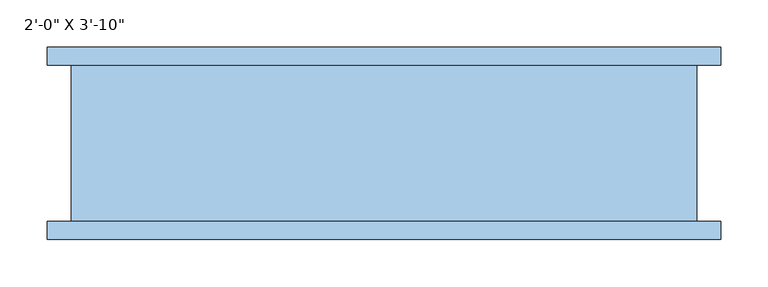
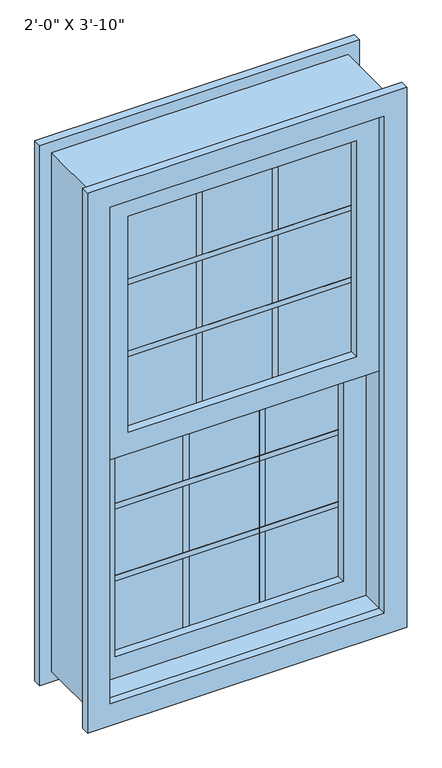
"""IFC4 building model written with IfcOpenShell, lengths in millimetres: window geometry."""

from ifc_helpers import new_model, si_unit, frame, origin, place, context, project, spatial, polyline, outline, extrude, source, transform, mapped, element, save


def window_c90586ce(model_context):
    return source(origin(), model_context, "Body", "SweptSolid", [
        extrude(outline(polyline([(1981.2, 304.8), (1981.2, -304.8), (1371.6, -304.8), (1371.6, 304.8), (1981.2, 304.8)]), holes=[polyline([(1930.4, 254.0), (1422.4, 254.0), (1422.4, -254.0), (1930.4, -254.0), (1930.4, 254.0)])]), frame((0.0, -82.55, 0.0), z_axis=(0.0, 1.0, 0.0), x_axis=(0.0, 0.0, 1.0)), (0.0, 0.0, 1.0), 50.8),
        extrude(outline(polyline([(-254.0, 0.0), (254.0, 0.0), (254.0, -12.7), (-254.0, -12.7), (-254.0, 0.0)])), frame((0.0, 0.0, 1026.5833333), z_axis=(0.0, 0.0, 1.0), x_axis=(1.0, 0.0, 0.0)), (0.0, 0.0, 1.0), 12.7),
        extrude(outline(polyline([(-254.0, 0.0), (254.0, 0.0), (254.0, -12.7), (-254.0, -12.7), (-254.0, 0.0)])), frame((0.0, 0.0, 1195.9166667), z_axis=(0.0, 0.0, 1.0), x_axis=(1.0, 0.0, 0.0)), (0.0, 0.0, 1.0), 12.7),
        extrude(outline(polyline([(-254.0, -50.8), (254.0, -50.8), (254.0, -63.5), (-254.0, -63.5), (-254.0, -50.8)])), frame((0.0, 0.0, 1754.7166667), z_axis=(0.0, 0.0, 1.0), x_axis=(1.0, 0.0, 0.0)), (0.0, 0.0, 1.0), 12.7),
        extrude(outline(polyline([(-254.0, -50.8), (254.0, -50.8), (254.0, -63.5), (-254.0, -63.5), (-254.0, -50.8)])), frame((0.0, 0.0, 1585.3833333), z_axis=(0.0, 0.0, 1.0), x_axis=(1.0, 0.0, 0.0)), (0.0, 0.0, 1.0), 12.7),
        extrude(outline(polyline([(-91.0166667, -50.8), (-78.3166667, -50.8), (-78.3166667, -63.5), (-91.0166667, -63.5), (-91.0166667, -50.8)])), frame((0.0, 0.0, 1422.4), z_axis=(0.0, 0.0, 1.0), x_axis=(1.0, 0.0, 0.0)), (0.0, 0.0, 1.0), 508.0),
        extrude(outline(polyline([(78.3166667, -50.8), (91.0166667, -50.8), (91.0166667, -63.5), (78.3166667, -63.5), (78.3166667, -50.8)])), frame((0.0, 0.0, 1422.4), z_axis=(0.0, 0.0, 1.0), x_axis=(1.0, 0.0, 0.0)), (0.0, 0.0, 1.0), 508.0),
        extrude(outline(polyline([(-254.0, -50.8), (254.0, -50.8), (254.0, -63.5), (-254.0, -63.5), (-254.0, -50.8)])), frame((0.0, 0.0, 1422.4), z_axis=(0.0, 0.0, 1.0), x_axis=(1.0, 0.0, 0.0)), (0.0, 0.0, 1.0), 508.0),
        extrude(outline(polyline([(78.3166667, 0.0), (91.0166667, 0.0), (91.0166667, -12.7), (78.3166667, -12.7), (78.3166667, 0.0)])), frame((0.0, 0.0, 863.6), z_axis=(0.0, 0.0, 1.0), x_axis=(1.0, 0.0, 0.0)), (0.0, 0.0, 1.0), 508.0),
        extrude(outline(polyline([(-91.0166667, 0.0), (-78.3166667, 0.0), (-78.3166667, -12.7), (-91.0166667, -12.7), (-91.0166667, 0.0)])), frame((0.0, 0.0, 863.6), z_axis=(0.0, 0.0, 1.0), x_axis=(1.0, 0.0, 0.0)), (0.0, 0.0, 1.0), 508.0),
        extrude(outline(polyline([(-254.0, 0.0), (254.0, 0.0), (254.0, -12.7), (-254.0, -12.7), (-254.0, 0.0)])), frame((0.0, 0.0, 863.6), z_axis=(0.0, 0.0, 1.0), x_axis=(1.0, 0.0, 0.0)), (0.0, 0.0, 1.0), 508.0),
        extrude(outline(polyline([(1422.4, -304.8), (812.8, -304.8), (812.8, 304.8), (1422.4, 304.8), (1422.4, -304.8)]), holes=[polyline([(1371.6, 254.0), (863.6, 254.0), (863.6, -254.0), (1371.6, -254.0), (1371.6, 254.0)])]), frame((0.0, -31.75, 0.0), z_axis=(0.0, 1.0, 0.0), x_axis=(0.0, 0.0, 1.0)), (0.0, 0.0, 1.0), 50.8),
        extrude(outline(polyline([(2032.0, -355.6), (762.0, -355.6), (762.0, 355.6), (2032.0, 355.6), (2032.0, -355.6)]), holes=[polyline([(1981.2, -304.8), (1981.2, 304.8), (812.8, 304.8), (812.8, -304.8), (1981.2, -304.8)])]), frame((0.0, 82.55, 0.0), z_axis=(0.0, 1.0, 0.0), x_axis=(0.0, 0.0, 1.0)), (0.0, 0.0, 1.0), 19.05),
        extrude(outline(polyline([(2032.0, -355.6), (762.0, -355.6), (762.0, 355.6), (2032.0, 355.6), (2032.0, -355.6)]), holes=[polyline([(1981.2, -304.8), (1981.2, 304.8), (812.8, 304.8), (812.8, -304.8), (1981.2, -304.8)])]), frame((0.0, -101.6, 0.0), z_axis=(0.0, 1.0, 0.0), x_axis=(0.0, 0.0, 1.0)), (0.0, 0.0, 1.0), 19.05),
        extrude(outline(polyline([(2006.6, 330.2), (2006.6, -330.2), (787.4, -330.2), (787.4, 330.2), (2006.6, 330.2)]), holes=[polyline([(1981.2, -304.8), (1981.2, 304.8), (812.8, 304.8), (812.8, -304.8), (1981.2, -304.8)])]), frame((0.0, -82.55, 0.0), z_axis=(0.0, 1.0, 0.0), x_axis=(0.0, 0.0, 1.0)), (0.0, 0.0, 1.0), 165.1),
    ])


if __name__ == "__main__":
    model = new_model("IFC4")
    model_context = context("Model", 3, world=origin())
    ifc_project = project(units=[si_unit("LENGTHUNIT", "METRE", prefix="MILLI")], contexts=[model_context])
    site = spatial("IfcSite", under=ifc_project)
    building = spatial("IfcBuilding", under=site)
    placement = place(None, origin())
    window_shape = window_c90586ce(model_context)
    element("IfcWindow", 1, ObjectType="C_Window Guilotine : 2'-0\" X 3'-10\"", at=placement, inside=building, context=model_context, shape_type="MappedRepresentation", body=[
        mapped(window_shape, transform((0.0, 0.0, 0.0), x_axis=(1.0, 0.0, 0.0), y_axis=(0.0, 1.0, 0.0), z_axis=(0.0, 0.0, 1.0))),
    ])
    save(model, "model.ifc")
